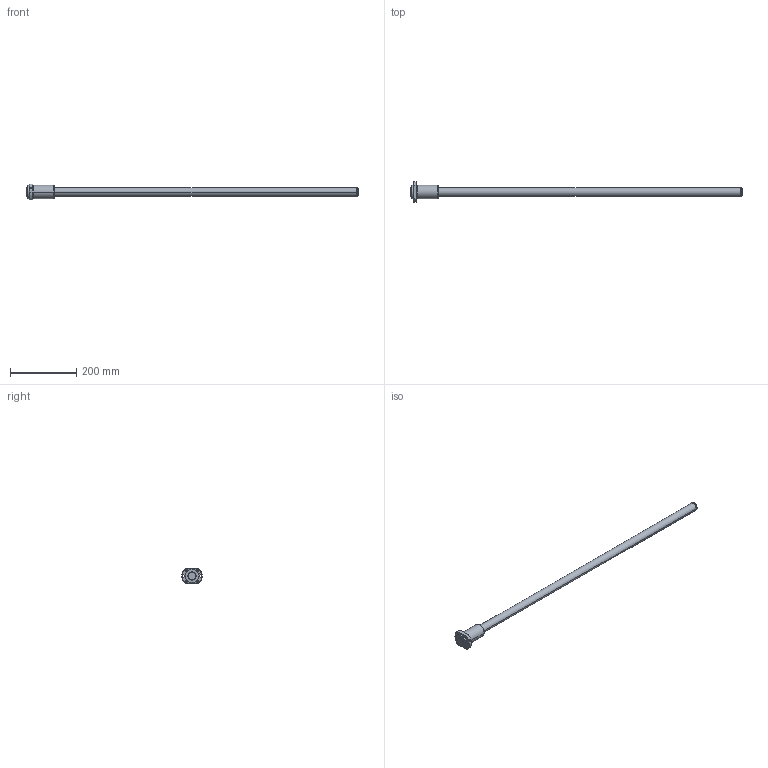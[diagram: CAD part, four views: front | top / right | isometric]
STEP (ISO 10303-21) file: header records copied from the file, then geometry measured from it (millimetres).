
FILE_DESCRIPTION( ( '' ), '1' );
FILE_NAME( 'C:/Users/v3-771-32344/Desktop/EBB STEP/EBB 2510-3 RRNone+1000L C7(910070)-ebb3.stp', '2015-08-27T13:37:16', ( '' ), ( '' ), ' ', ' ', ' ' );
FILE_SCHEMA( ( 'CONFIG_CONTROL_DESIGN' ) );
Length unit declared in the file: millimetre
Products named in the file (2): 1; 2
Bounding box: 1000 x 62 x 48 mm (x, y, z)
Volume: 562797.2 mm3; surface area: 102480.5 mm2
Topology: 2 solids, 2 shells, 67 faces, 155 edges, 99 vertices
Faces by surface type: cylinder 36, cone 18, plane 13
Entity records: 2167 total; most frequent: CARTESIAN_POINT 473, DIRECTION 366, ORIENTED_EDGE 310, AXIS2_PLACEMENT_3D 155, EDGE_CURVE 155, VERTEX_POINT 99, EDGE_LOOP 90, CIRCLE 86
